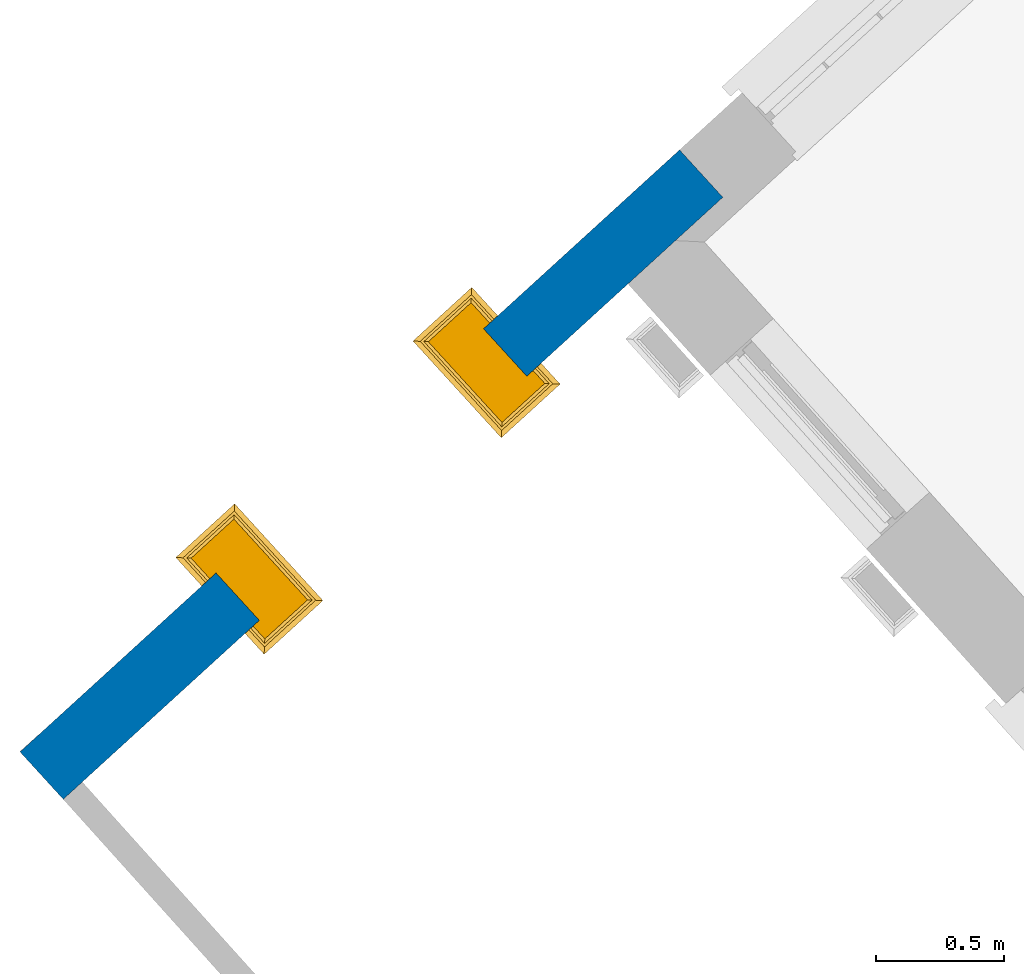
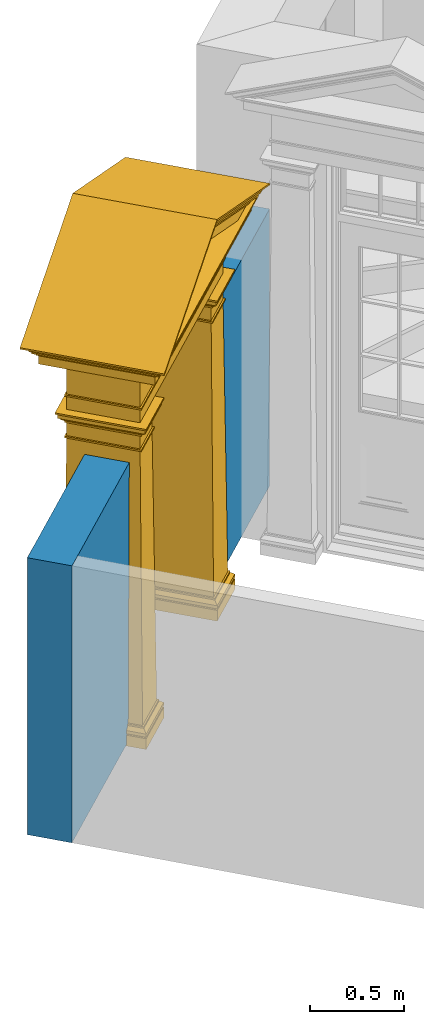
# One storey, part 2 of 7: 1 door, 1 wall, 1 opening.
"""IFC4 building model written with IfcOpenShell, lengths in metres."""

import ifcopenshell
import ifcopenshell.guid

model = None  # the IFC model being written
_history = None  # IfcOwnerHistory: only IFC2X3 demands one
_inside = {}  # id of a spatial element -> (the spatial element, [elements in it])
_under = {}  # id of a project, library or spatial element -> (it, [spatial elements below it])
_declared = {}  # id of a project -> (the project, [libraries it declares])
_typed = {}  # id of a type object -> (the type object, [elements of that type])
_made_of = {}  # id of a material, layer set ... -> (it, [elements and type objects made of it])


def new_model(schema):
    """Start an empty IFC model of exactly this schema.

    Asked for "IFC4X3", IfcOpenShell would pick the latest addendum, in which some entities
    have other attributes; the version numbers below select the first issue.
    IFC2X3 requires an IfcOwnerHistory on every rooted entity: one is made here for all.
    """
    global model, _history
    if schema == "IFC4X3":
        model = ifcopenshell.file(schema_version=(4, 3, 0, 0))
    else:
        model = ifcopenshell.file(schema=schema)
    _inside.clear()
    _under.clear()
    _declared.clear()
    _typed.clear()
    _made_of.clear()
    _history = None
    if model.schema == "IFC2X3":
        org = make("IfcOrganization", Name="unknown")
        user = make(
            "IfcPersonAndOrganization",
            ThePerson=make("IfcPerson", FamilyName="unknown"),
            TheOrganization=org,
        )
        app = make(
            "IfcApplication",
            ApplicationDeveloper=org,
            Version="unknown",
            ApplicationFullName="unknown",
            ApplicationIdentifier="unknown",
        )
        _history = make(
            "IfcOwnerHistory",
            OwningUser=user,
            OwningApplication=app,
            ChangeAction="ADDED",
            CreationDate=0,
        )
    return model


def make(cls, **values):
    """One entity of the class cls with the attributes given. An attribute that is None is left unset."""
    return model.create_entity(
        cls, **{name: value for name, value in values.items() if value is not None}
    )


def rooted(cls, **values):
    """An entity with a GlobalId (a new one), such as an element, a storey or a relation."""
    return make(cls, GlobalId=ifcopenshell.guid.new(), OwnerHistory=_history, **values)


def si_unit(unit_type, name, prefix=None):
    """IfcSIUnit, for example si_unit("LENGTHUNIT", "METRE", prefix="MILLI")."""
    return make("IfcSIUnit", UnitType=unit_type, Prefix=prefix, Name=name)


def assignment(units):
    """IfcUnitAssignment: the units of a project."""
    return None if units is None else make("IfcUnitAssignment", Units=units)


def point(xyz):
    """IfcCartesianPoint."""
    return None if xyz is None else make("IfcCartesianPoint", Coordinates=xyz)


def direction(xyz):
    """IfcDirection."""
    return None if xyz is None else make("IfcDirection", DirectionRatios=xyz)


def frame(location, z_axis=None, x_axis=None):
    """IfcAxis2Placement3D, a coordinate frame: its origin and axes. An axis left out is left unset."""
    return make(
        "IfcAxis2Placement3D",
        Location=point(location),
        Axis=direction(z_axis),
        RefDirection=direction(x_axis),
    )


def origin():
    """The frame at (0, 0, 0) with its axes left unset."""
    return frame((0.0, 0.0, 0.0))


def origin_with_axes():
    """The frame at (0, 0, 0) with the z axis (0, 0, 1) and the x axis (1, 0, 0) written out."""
    return frame((0.0, 0.0, 0.0), z_axis=(0.0, 0.0, 1.0), x_axis=(1.0, 0.0, 0.0))


def place(relative_to, where):
    """IfcLocalPlacement: puts the frame where relative to a parent placement (None: the world)."""
    return make(
        "IfcLocalPlacement", PlacementRelTo=relative_to, RelativePlacement=where
    )


def context(
    kind, dimensions, precision=None, world=None, true_north=None, identifier=None
):
    """IfcGeometricRepresentationContext, for example the 3D "Model" context."""
    return make(
        "IfcGeometricRepresentationContext",
        ContextIdentifier=identifier,
        ContextType=kind,
        CoordinateSpaceDimension=dimensions,
        Precision=precision,
        WorldCoordinateSystem=world,
        TrueNorth=true_north,
    )


def subcontext(parent, identifier, kind, view, scale=None):
    """IfcGeometricRepresentationSubContext, for example "Body" below "Model"."""
    return make(
        "IfcGeometricRepresentationSubContext",
        ContextIdentifier=identifier,
        ContextType=kind,
        ParentContext=parent,
        TargetScale=scale,
        TargetView=view,
    )


def project(units=None, contexts=None):
    """IfcProject with its units and contexts."""
    return rooted(
        "IfcProject",
        Name="project",
        RepresentationContexts=contexts,
        UnitsInContext=assignment(units),
    )


def spatial(cls, under=None, at=None, **own):
    """A site, building, storey or space (cls), placed at a placement, below another one or the project."""
    s = rooted(cls, ObjectPlacement=at, **own)
    if under is not None:
        _under.setdefault(under.id(), (under, []))[1].append(s)
    return s


def polyline(points):
    """IfcPolyline through the points."""
    return make("IfcPolyline", Points=[point(p) for p in points])


def outline(outer, holes=None, kind="AREA"):
    """IfcArbitraryClosedProfileDef: a profile drawn as a closed curve; with holes, ...WithVoids."""
    if holes is None:
        return make("IfcArbitraryClosedProfileDef", ProfileType=kind, OuterCurve=outer)
    return make(
        "IfcArbitraryProfileDefWithVoids",
        ProfileType=kind,
        OuterCurve=outer,
        InnerCurves=holes,
    )


def extrude(swept, where, along, depth):
    """IfcExtrudedAreaSolid: the profile swept, set in the frame where, extruded along a direction by depth."""
    return make(
        "IfcExtrudedAreaSolid",
        SweptArea=swept,
        Position=where,
        ExtrudedDirection=direction(along),
        Depth=depth,
    )


def faces_of(points, faces, orient=None, outer=None):
    """IfcFace entities. A face is a list of loops; a loop is a list of indices into points, from 0.

    orient and outer hold one flag for each loop. By default every Orientation is true, the
    first loop of a face is its IfcFaceOuterBound and the others are IfcFaceBound.
    """
    made = []
    for i, loops in enumerate(faces):
        bounds = []
        for j, loop in enumerate(loops):
            is_outer = j == 0 if outer is None else outer[i][j]
            bounds.append(
                make(
                    "IfcFaceOuterBound" if is_outer else "IfcFaceBound",
                    Bound=make("IfcPolyLoop", Polygon=[points[k] for k in loop]),
                    Orientation=True if orient is None else orient[i][j],
                )
            )
        made.append(make("IfcFace", Bounds=bounds))
    return made


def faceted_brep(points, faces, orient=None, outer=None, voids=None):
    """IfcFacetedBrep: a solid bounded by flat faces; with voids (closed shells), ...WithVoids."""
    shared = [point(p) for p in points]
    hull = make("IfcClosedShell", CfsFaces=faces_of(shared, faces, orient, outer))
    if voids is None:
        return make("IfcFacetedBrep", Outer=hull)
    return make(
        "IfcFacetedBrepWithVoids",
        Outer=hull,
        Voids=[
            make(cls, CfsFaces=faces_of(shared, fs, o, b)) for cls, fs, o, b in voids
        ],
    )


def shape(context_of_items, identifier, shape_type, items):
    """IfcShapeRepresentation: the items that make up one representation, for example the "Body"."""
    return make(
        "IfcShapeRepresentation",
        ContextOfItems=context_of_items,
        RepresentationIdentifier=identifier,
        RepresentationType=shape_type,
        Items=items,
    )


def source(mapping_origin, context_of_items, identifier, shape_type, items):
    """IfcRepresentationMap: a shape defined once, which mapped items show again and again."""
    return make(
        "IfcRepresentationMap",
        MappingOrigin=mapping_origin,
        MappedRepresentation=shape(context_of_items, identifier, shape_type, items),
    )


def transform(
    local_origin,
    x_axis=None,
    y_axis=None,
    z_axis=None,
    scale=None,
    scale2=None,
    scale3=None,
    uniform=True,
):
    """IfcCartesianTransformationOperator3D, or its non-uniform kind. x_axis, y_axis, z_axis: its Axis1, 2, 3."""
    if uniform:
        return make(
            "IfcCartesianTransformationOperator3D",
            Axis1=direction(x_axis),
            Axis2=direction(y_axis),
            LocalOrigin=point(local_origin),
            Scale=scale,
            Axis3=direction(z_axis),
        )
    return make(
        "IfcCartesianTransformationOperator3DnonUniform",
        Axis1=direction(x_axis),
        Axis2=direction(y_axis),
        LocalOrigin=point(local_origin),
        Scale=scale,
        Axis3=direction(z_axis),
        Scale2=scale2,
        Scale3=scale3,
    )


def mapped(mapping_source, mapping_target):
    """IfcMappedItem: shows the shape of a source again, moved by a transform."""
    return make(
        "IfcMappedItem", MappingSource=mapping_source, MappingTarget=mapping_target
    )


def material(Name=None, Category=None):
    """IfcMaterial."""
    return make("IfcMaterial", Name=Name, Category=Category)


def layer(
    of_material, thickness, ventilated=None, Name=None, Category=None, Priority=None
):
    """IfcMaterialLayer: one layer of a wall or slab, of a material (None: an air gap)."""
    return make(
        "IfcMaterialLayer",
        Material=of_material,
        LayerThickness=thickness,
        IsVentilated=ventilated,
        Name=Name,
        Category=Category,
        Priority=Priority,
    )


def layer_set(layers, Name=None):
    """IfcMaterialLayerSet."""
    return make("IfcMaterialLayerSet", MaterialLayers=layers, LayerSetName=Name)


def layer_usage(for_layer_set, set_direction, sense, offset, extent=None):
    """IfcMaterialLayerSetUsage: how a layer set lies in its element."""
    return make(
        "IfcMaterialLayerSetUsage",
        ForLayerSet=for_layer_set,
        LayerSetDirection=set_direction,
        DirectionSense=sense,
        OffsetFromReferenceLine=offset,
        ReferenceExtent=extent,
    )


def made_of(thing, what):
    """Note that an element or type object is made of a material, layer set ...; save() writes the relation."""
    if what is not None:
        _made_of.setdefault(what.id(), (what, []))[1].append(thing)
    return thing


def type_object(cls, material=None, **own):
    """A type object (cls), such as IfcWallType, which elements share."""
    return made_of(rooted(cls, **own), material)


def type_shapes(of_type, sources):
    """Give a type object the sources (RepresentationMaps) that its elements show as mapped items."""
    of_type.RepresentationMaps = sources


def element(
    cls,
    number,
    at=None,
    inside=None,
    cuts=None,
    type_object=None,
    material=None,
    context=None,
    identifier="Body",
    shape_type=None,
    held_by="IfcProductDefinitionShape",
    body=None,
    shapes=None,
    **own,
):
    """One element of the class cls, such as IfcWall. Its Tag is "e" and its number.

    at: its placement. inside: the storey or other place that contains it. cuts: it is an
    opening in that element (IfcRelVoidsElement). A single representation is given by context,
    identifier, shape_type and body (its items); several are given by shapes. held_by: the class
    of the entity that holds the representations. save() writes the other relations.
    """
    e = rooted(cls, Tag="e%d" % number, ObjectPlacement=at, **own)
    if body is not None:
        shapes = [shape(context, identifier, shape_type, body)]
    if shapes is not None:
        e.Representation = make(held_by, Representations=shapes)
    if inside is not None:
        _inside.setdefault(inside.id(), (inside, []))[1].append(e)
    if cuts is not None:
        rooted(
            "IfcRelVoidsElement", RelatingBuildingElement=cuts, RelatedOpeningElement=e
        )
    if type_object is not None:
        _typed.setdefault(type_object.id(), (type_object, []))[1].append(e)
    return made_of(e, material)


def fill(opening, filler):
    """IfcRelFillsElement: the door or window that sits in an opening."""
    return rooted(
        "IfcRelFillsElement",
        RelatingOpeningElement=opening,
        RelatedBuildingElement=filler,
    )


def aggregate(whole, parts):
    """IfcRelAggregates: a whole, such as a stair, and the parts it consists of."""
    return rooted("IfcRelAggregates", RelatingObject=whole, RelatedObjects=parts)


def save(model, path):
    """Write the relations noted so far, then the file.

    IfcRelAggregates (storeys below a building ...), IfcRelContainedInSpatialStructure (elements
    in a storey), IfcRelDefinesByType, IfcRelAssociatesMaterial and IfcRelDeclares: one each for
    every whole, place, type object, material and project.
    """
    for whole, parts in _under.values():
        aggregate(whole, parts)
    for where, things in _inside.values():
        rooted(
            "IfcRelContainedInSpatialStructure",
            RelatedElements=things,
            RelatingStructure=where,
        )
    for kind, things in _typed.values():
        rooted("IfcRelDefinesByType", RelatedObjects=things, RelatingType=kind)
    for what, things in _made_of.values():
        rooted("IfcRelAssociatesMaterial", RelatedObjects=things, RelatingMaterial=what)
    for by, libraries in _declared.values():
        rooted("IfcRelDeclares", RelatingContext=by, RelatedDefinitions=libraries)
    model.write(path)


model = new_model("IFC4")

# Units and contexts
model_context = context("Model", 3, world=origin_with_axes())
body_context = subcontext(model_context, "Body", "Model", "MODEL_VIEW")
ifc_project = project(units=[si_unit("PLANEANGLEUNIT", "RADIAN"), si_unit("MASSUNIT", "GRAM", prefix="KILO"), si_unit("FORCEUNIT", "NEWTON", prefix="KILO"), si_unit("LENGTHUNIT", "METRE"), si_unit("AREAUNIT", "SQUARE_METRE"), si_unit("VOLUMEUNIT", "CUBIC_METRE")], contexts=[model_context, model_context])

# Sites, building, storey
site_1_placement = place(None, origin_with_axes())
site_1 = spatial("IfcSite", under=ifc_project, at=site_1_placement, Name="Tamar")
site_2_placement = place(site_1_placement, origin_with_axes())
site_2 = spatial("IfcSite", under=site_1, at=site_2_placement, Name="Site plot-7", CompositionType="ELEMENT")
building_placement = place(None, origin_with_axes())
building = spatial("IfcBuilding", under=site_2, at=building_placement, Name="Building plot-7", CompositionType="ELEMENT")
storey_placement = place(None, frame((0.0, 0.0, 26.0), z_axis=(0.0, 0.0, 1.0), x_axis=(1.0, 0.0, 0.0)))
storey = spatial("IfcBuildingStorey", under=building, at=storey_placement, Name="plot-7 0", CompositionType="ELEMENT", Elevation=26.0)

# Wall, opening, door
ifc_material = material(Name="Masonry")
ifc_layer = layer(ifc_material, 0.25, ventilated=False)
ifc_layer_set = layer_set([ifc_layer], Name="fence_0_0.25")
ifc_layer_usage = layer_usage(ifc_layer_set, "AXIS2", "POSITIVE", -0.25)
wall_type = type_object("IfcWallType", Name="fence_0_0.25", PredefinedType="SOLIDWALL", material=ifc_layer_set)
wall_placement = place(storey_placement, frame((239.471954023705, 287.134500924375, 0.0), z_axis=(0.0, 0.0, 1.0), x_axis=(-0.738612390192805, -0.674130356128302, 0.0)))
wall = element("IfcWall", 1, at=wall_placement, inside=storey, type_object=wall_type, material=ifc_layer_usage, Name="fence", context=body_context, shape_type="SweptSolid", body=[
    extrude(outline(polyline([(-0.249999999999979, 9.9613910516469e-15), (-0.249999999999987, -0.250000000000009), (3.22633409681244, -0.250000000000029), (3.22633409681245, -1.00294611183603e-14), (-0.249999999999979, 9.9613910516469e-15)])), origin_with_axes(), (0.0, 0.0, 1.0), 1.8),
])
opening_placement = place(wall_placement, frame((0.783167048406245, 0.0, -0.0100000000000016)))
opening = element("IfcOpeningElement", 2, at=opening_placement, cuts=wall, Name="My Opening", ObjectType="Opening", context=body_context, shape_type="SweptSolid", body=[
    extrude(outline(polyline([(0.0, -0.270000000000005), (1.41000000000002, -0.269999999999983), (1.41000000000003, 1.02000000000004), (7.32747196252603e-15, 1.02000000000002), (0.0, -0.270000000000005)])), origin_with_axes(), (0.0, 0.0, 1.0), 1.81),
])
door_type = type_object("IfcDoorType", Name="gate", OperationType="SINGLE_SWING_LEFT", PredefinedType="NOTDEFINED")
shared_shape = source(origin(), body_context, "Body", "Brep", [
    faceted_brep([(1.565, 0.25, 2.5), (1.565, -0.21, 2.5), (1.565, -0.21, 2.49), (1.565, 0.25, 2.49), (1.445, -0.09, 2.01), (1.215, -0.09, 2.01), (1.215, -0.09, 2.0), (1.445, -0.09, 2.0), (-0.035, -0.09, 2.180001), (-0.025, -0.08, 2.180001), (-0.025, 0.25, 2.180001), (-0.035, 0.25, 2.180001), (-0.025, -0.08, 2.170001), (-0.035, -0.09, 2.170001), (-0.035, 0.25, 2.170001), (-0.025, 0.25, 2.170001), (1.445, -0.09, 2.180001), (1.435, -0.08, 2.180001), (-0.025, -0.08, 2.37), (-0.025, 0.25, 2.37), (1.435, -0.08, 2.170001), (1.445, -0.09, 2.170001), (-0.025, -0.08, 2.08), (-0.025, 0.25, 2.08), (1.445, 0.25, 2.180001), (1.435, 0.25, 2.180001), (1.435, -0.08, 2.37), (-0.035, -0.09, 2.37), (-0.035, 0.25, 2.37), (1.435, 0.25, 2.37), (1.445, 0.25, 2.170001), (1.435, 0.25, 2.170001), (0.235, -0.08, 2.08), (0.235, 0.25, 2.08), (1.175, 0.25, 2.08), (1.175, -0.08, 2.08), (-0.075, 0.25, 2.08), (-0.075, -0.13, 2.08), (1.445, -0.09, 2.37), (-0.035, -0.09, 2.380001), (-0.035, 0.25, 2.380001), (1.445, 0.25, 2.37), (1.435, -0.08, 2.08), (1.435, 0.25, 2.08), (0.235, 0.38, 2.07), (0.235, 0.38, 2.08), (0.235, 0.33, 2.08), (0.235, -0.13, 2.08), (-0.075, 0.25, 2.07), (-0.075, -0.13, 2.07), (1.445, -0.09, 2.380001), (-0.045, -0.1, 2.39), (-0.045, 0.25, 2.39), (1.455, 0.25, 2.39), (1.455, -0.1, 2.39), (1.445, 0.25, 2.380001), (1.485, -0.13, 2.08), (1.485, 0.25, 2.08), (0.235, -0.13, 2.07), (1.175, -0.13, 2.08), (-0.065, 0.25, 2.07), (-0.065, -0.12, 2.07), (-0.055, -0.11, 2.39), (-0.055, 0.25, 2.39), (1.465, 0.25, 2.39), (1.465, -0.11, 2.39), (1.485, 0.25, 2.07), (1.485, -0.13, 2.07), (0.225, 0.25, 2.07), (0.235, 0.25, 2.07), (0.225, -0.12, 2.07), (-0.065, 0.25, 2.04), (-0.065, -0.12, 2.04), (1.475, 0.25, 2.07), (1.475, -0.12, 2.07), (1.175, 0.25, 2.07), (1.185, 0.25, 2.07), (1.185, -0.12, 2.07), (1.175, -0.13, 2.07), (1.175, 0.33, 2.08), (1.175, 0.38, 2.07), (-0.055, -0.11, 2.4), (-0.055, 0.25, 2.4), (1.465, 0.25, 2.4), (1.465, -0.11, 2.4), (0.225, 0.25, 2.04), (0.225, -0.12, 2.04), (-0.055, 0.25, 2.04), (-0.055, -0.11, 2.04), (1.475, 0.25, 2.04), (1.475, -0.12, 2.04), (1.185, 0.25, 2.04), (1.195, 0.25, 2.04), (1.195, -0.11, 2.04), (1.185, -0.12, 2.04), (-0.065, -0.12, 2.4), (-0.065, 0.25, 2.4), (-0.085, -0.14, 2.42), (-0.085, 0.25, 2.42), (-0.085, -0.14, 2.43), (-0.085, 0.25, 2.43), (1.495, 0.25, 2.43), (1.495, -0.14, 2.43), (1.495, -0.14, 2.42), (1.495, 0.25, 2.42), (1.475, 0.25, 2.4), (1.475, -0.12, 2.4), (0.215, 0.25, 2.04), (0.215, -0.11, 2.04), (-0.055, 0.25, 2.03), (-0.055, -0.11, 2.03), (0.215, 0.25, 2.03), (0.215, -0.11, 2.03), (1.465, 0.25, 2.04), (1.465, -0.11, 2.04), (1.195, 0.25, 2.03), (1.195, -0.11, 2.03), (1.465, 0.25, 2.03), (1.465, -0.11, 2.03), (-0.145, -0.2, 2.43), (-0.145, 0.25, 2.43), (1.555, 0.25, 2.43), (1.555, -0.2, 2.43), (-0.035, 0.25, 2.01), (-0.035, -0.09, 2.01), (0.195, 0.25, 2.01), (0.195, -0.09, 2.01), (1.215, 0.25, 2.01), (1.445, 0.25, 2.01), (-0.145, -0.2, 2.49), (-0.145, 0.25, 2.49), (1.555, 0.25, 2.49), (1.555, -0.2, 2.49), (-0.035, 0.25, 2.0), (-0.035, -0.09, 2.0), (0.195, 0.25, 2.0), (0.195, -0.09, 2.0), (1.215, 0.25, 2.0), (1.445, 0.25, 2.0), (-0.155, -0.21, 2.49), (-0.155, 0.25, 2.49), (-0.155, -0.21, 2.5), (-0.155, 0.25, 2.5), (-0.165, -0.22, 2.51), (-0.165, 0.25, 2.51), (1.575, 0.25, 2.51), (1.575, -0.22, 2.51), (-0.025, -0.08, 2.0), (-0.025, 0.25, 2.0), (0.185, -0.08, 2.0), (0.185, 0.25, 2.0), (-0.025, 0.25, 1.91), (-0.025, -0.08, 1.91), (0.185, 0.25, 1.91), (0.185, -0.08, 1.91), (1.225, 0.25, 2.0), (1.225, -0.08, 2.0), (1.435, -0.08, 2.0), (1.435, 0.25, 2.0), (1.435, 0.25, 1.91), (1.435, -0.08, 1.91), (1.225, 0.25, 1.91), (1.225, -0.08, 1.91), (-0.175, -0.23, 2.51), (-0.175, 0.25, 2.51), (1.585, 0.25, 2.51), (1.585, -0.23, 2.51), (-0.035, 0.25, 1.91), (-0.035, -0.09, 1.91), (0.195, -0.09, 1.91), (0.195, 0.25, 1.91), (1.445, -0.09, 1.91), (1.445, 0.25, 1.91), (1.215, -0.09, 1.91), (1.215, 0.25, 1.91), (-0.175, -0.23, 2.52), (-0.175, 0.25, 2.52), (1.585, 0.25, 2.52), (1.585, -0.23, 2.52), (-0.035, 0.25, 1.9), (-0.035, -0.09, 1.9), (0.195, 0.25, 1.9), (0.195, -0.09, 1.9), (-0.025, -0.08, 1.9), (-0.025, 0.25, 1.9), (0.185, -0.08, 1.9), (0.185, 0.25, 1.9), (-0.045, 0.25, 0.13), (-0.045, -0.1, 0.13), (0.205, 0.25, 0.13), (0.205, -0.1, 0.13), (1.445, -0.09, 1.9), (1.445, 0.25, 1.9), (1.435, -0.08, 1.9), (1.435, 0.25, 1.9), (1.455, -0.1, 0.13), (1.455, 0.25, 0.13), (1.225, 0.25, 1.9), (1.205, 0.25, 0.13), (1.205, -0.1, 0.13), (1.225, -0.08, 1.9), (1.215, -0.09, 1.9), (1.215, 0.25, 1.9), (-0.185, -0.24, 2.526), (-0.185, 0.25, 2.526), (-0.150858, -0.23, 2.52), (1.560858, -0.23, 2.52), (-0.195, -0.25, 2.551001), (-0.195, 0.25, 2.551001), (-0.223, 0.25, 2.561001), (-0.223, -0.278, 2.561001), (1.633, -0.278, 2.561001), (1.605, -0.25, 2.551001), (1.605, 0.25, 2.551001), (1.633, 0.25, 2.561001), (1.595, 0.25, 2.526), (1.595, -0.24, 2.526), (-0.055, 0.25, 0.13), (-0.055, -0.11, 0.13), (0.215, 0.25, 0.13), (0.215, -0.11, 0.13), (1.465, -0.11, 0.13), (1.465, 0.25, 0.13), (1.195, 0.25, 0.13), (1.195, -0.11, 0.13), (0.705, -0.23, 2.884508), (0.705, -0.24, 2.89465), (0.705, -0.23, 2.874508), (1.486538, -0.21, 2.522499), (-0.076538, -0.21, 2.522499), (0.705, -0.25, 2.923792), (0.705, -0.278, 2.945389), (-0.223, -0.278, 2.571001), (-0.223, 0.25, 2.571001), (1.633, 0.25, 2.571001), (1.633, -0.278, 2.571001), (-0.055, 0.25, 0.12), (-0.055, -0.11, 0.12), (0.215, 0.25, 0.12), (0.215, -0.11, 0.12), (-0.075, 0.25, 0.1), (-0.075, -0.13, 0.1), (0.235, 0.25, 0.1), (0.235, -0.13, 0.1), (1.465, 0.25, 0.12), (1.465, -0.11, 0.12), (1.485, 0.25, 0.1), (1.485, -0.13, 0.1), (1.195, 0.25, 0.12), (1.175, 0.25, 0.1), (1.175, -0.13, 0.1), (1.195, -0.11, 0.12), (-0.13784, -0.22, 2.52125), (0.705, -0.22, 2.870365), (1.51068, -0.21, 2.522499), (1.54784, -0.22, 2.52125), (1.316733, -0.2, 2.523749), (0.093267, -0.2, 2.523749), (-0.10068, -0.21, 2.522499), (0.705, -0.278, 2.955389), (0.705, 0.25, 2.955389), (-0.075, 0.25, 0.08), (-0.075, -0.13, 0.08), (0.235, 0.25, 0.08), (0.235, -0.13, 0.08), (1.485, -0.13, 0.08), (1.485, 0.25, 0.08), (1.175, 0.25, 0.08), (1.175, -0.13, 0.08), (0.705, -0.21, 2.856223), (0.705, -0.21, 2.846222), (1.272495, -0.14, 2.53125), (0.137505, -0.14, 2.53125), (-0.06352, -0.2, 2.523749), (1.47352, -0.2, 2.523749), (-0.065, 0.25, 0.07), (-0.065, -0.12, 0.07), (0.225, 0.25, 0.07), (0.225, -0.12, 0.07), (1.475, 0.25, 0.07), (1.475, -0.12, 0.07), (1.185, 0.25, 0.07), (1.185, -0.12, 0.07), (0.705, -0.2, 2.842082), (1.298626, -0.14, 2.53125), (1.214197, -0.12, 2.533749), (0.195803, -0.12, 2.533749), (0.111374, -0.14, 2.53125), (0.705, -0.2, 2.777137), (-0.075, 0.25, 0.07), (-0.075, -0.13, 0.07), (0.235, -0.13, 0.07), (0.235, 0.25, 0.07), (0.235, -0.13, 0.0), (-0.075, -0.13, 0.0), (-0.075, 0.25, 0.0), (0.235, 0.25, 0.0), (1.485, -0.13, 0.07), (1.485, 0.25, 0.07), (1.485, -0.13, 0.0), (1.175, -0.13, 0.0), (1.175, 0.25, 0.0), (1.485, 0.25, 0.0), (1.175, -0.13, 0.07), (1.175, 0.25, 0.07), (0.705, -0.14, 2.766314), (0.705, -0.14, 2.777137), (0.705, -0.12, 2.744666), (1.185048, -0.11, 2.535), (0.224952, -0.11, 2.535), (0.705, -0.11, 2.744666), (1.211179, -0.11, 2.535), (1.12675, -0.09, 2.537501), (0.28325, -0.09, 2.537501), (0.198821, -0.11, 2.535), (0.705, -0.11, 2.733843), (1.152881, -0.09, 2.537501), (1.18203, -0.1, 2.536251), (0.286268, -0.08, 2.538751), (1.123732, -0.08, 2.538751), (0.22797, -0.1, 2.536251), (0.257119, -0.09, 2.537501), (0.705, -0.1, 2.733843), (0.705, -0.09, 2.712194), (0.705, -0.09, 2.723017), (0.705, -0.08, 2.712194), (-0.155, 0.46, 2.5), (-0.155, 0.46, 2.49), (-0.035, 0.34, 2.01), (0.195, 0.34, 2.01), (0.195, 0.34, 2.0), (-0.035, 0.34, 2.0), (1.445, 0.34, 2.180001), (1.435, 0.33, 2.180001), (1.435, 0.33, 2.170001), (1.445, 0.34, 2.170001), (-0.035, 0.34, 2.180001), (-0.025, 0.33, 2.180001), (1.435, 0.33, 2.37), (-0.025, 0.33, 2.170001), (-0.035, 0.34, 2.170001), (1.435, 0.33, 2.08), (-0.025, 0.33, 2.37), (1.445, 0.34, 2.37), (1.485, 0.38, 2.08), (-0.035, 0.34, 2.37), (1.445, 0.34, 2.380001), (-0.025, 0.33, 2.08), (1.175, 0.38, 2.08), (1.485, 0.38, 2.07), (-0.035, 0.34, 2.380001), (1.455, 0.35, 2.39), (-0.045, 0.35, 2.39), (-0.075, 0.38, 2.08), (1.475, 0.37, 2.07), (1.465, 0.36, 2.39), (-0.055, 0.36, 2.39), (-0.075, 0.38, 2.07), (1.185, 0.37, 2.07), (1.475, 0.37, 2.04), (-0.065, 0.37, 2.07), (0.225, 0.37, 2.07), (1.465, 0.36, 2.4), (-0.055, 0.36, 2.4), (1.185, 0.37, 2.04), (1.465, 0.36, 2.04), (-0.065, 0.37, 2.04), (0.215, 0.36, 2.04), (0.225, 0.37, 2.04), (1.475, 0.37, 2.4), (1.495, 0.39, 2.42), (1.495, 0.39, 2.43), (-0.085, 0.39, 2.43), (-0.085, 0.39, 2.42), (-0.065, 0.37, 2.4), (1.195, 0.36, 2.04), (1.465, 0.36, 2.03), (1.195, 0.36, 2.03), (-0.055, 0.36, 2.04), (0.215, 0.36, 2.03), (-0.055, 0.36, 2.03), (1.555, 0.45, 2.43), (-0.145, 0.45, 2.43), (1.445, 0.34, 2.01), (1.215, 0.34, 2.01), (1.555, 0.45, 2.49), (-0.145, 0.45, 2.49), (1.445, 0.34, 2.0), (1.215, 0.34, 2.0), (1.565, 0.46, 2.49), (1.565, 0.46, 2.5), (1.575, 0.47, 2.51), (-0.165, 0.47, 2.51), (1.435, 0.33, 2.0), (1.225, 0.33, 2.0), (1.435, 0.33, 1.91), (1.225, 0.33, 1.91), (0.185, 0.33, 2.0), (-0.025, 0.33, 2.0), (-0.025, 0.33, 1.91), (0.185, 0.33, 1.91), (1.585, 0.48, 2.51), (-0.175, 0.48, 2.51), (1.445, 0.34, 1.91), (1.215, 0.34, 1.91), (-0.035, 0.34, 1.91), (0.195, 0.34, 1.91), (1.585, 0.48, 2.52), (-0.175, 0.48, 2.52), (1.445, 0.34, 1.9), (1.215, 0.34, 1.9), (1.435, 0.33, 1.9), (1.225, 0.33, 1.9), (1.455, 0.35, 0.13), (1.205, 0.35, 0.13), (-0.035, 0.34, 1.9), (-0.025, 0.33, 1.9), (-0.045, 0.35, 0.13), (0.205, 0.35, 0.13), (0.185, 0.33, 1.9), (0.195, 0.34, 1.9), (1.595, 0.49, 2.526), (1.560858, 0.48, 2.52), (-0.150858, 0.48, 2.52), (1.605, 0.5, 2.551001), (1.633, 0.528, 2.561001), (-0.223, 0.528, 2.561001), (-0.195, 0.5, 2.551001), (-0.185, 0.49, 2.526), (1.465, 0.36, 0.13), (1.195, 0.36, 0.13), (-0.055, 0.36, 0.13), (0.215, 0.36, 0.13), (0.705, 0.48, 2.884508), (0.705, 0.49, 2.89465), (0.705, 0.48, 2.874508), (-0.076538, 0.46, 2.522499), (1.486538, 0.46, 2.522499), (0.705, 0.5, 2.923792), (0.705, 0.528, 2.945389), (1.633, 0.528, 2.571001), (-0.223, 0.528, 2.571001), (1.465, 0.36, 0.12), (1.195, 0.36, 0.12), (1.485, 0.38, 0.1), (1.175, 0.38, 0.1), (-0.055, 0.36, 0.12), (-0.075, 0.38, 0.1), (0.235, 0.38, 0.1), (0.215, 0.36, 0.12), (1.54784, 0.47, 2.52125), (0.705, 0.47, 2.870365), (-0.10068, 0.46, 2.522499), (-0.13784, 0.47, 2.52125), (0.093267, 0.45, 2.523749), (1.316733, 0.45, 2.523749), (1.51068, 0.46, 2.522499), (0.705, 0.528, 2.955389), (1.485, 0.38, 0.08), (1.175, 0.38, 0.08), (-0.075, 0.38, 0.08), (0.235, 0.38, 0.08), (0.705, 0.46, 2.856223), (0.705, 0.46, 2.846222), (0.137505, 0.39, 2.53125), (1.272495, 0.39, 2.53125), (1.47352, 0.45, 2.523749), (-0.06352, 0.45, 2.523749), (1.475, 0.37, 0.07), (1.185, 0.37, 0.07), (-0.065, 0.37, 0.07), (0.225, 0.37, 0.07), (0.705, 0.45, 2.842082), (0.111374, 0.39, 2.53125), (0.195803, 0.37, 2.533749), (1.214197, 0.37, 2.533749), (1.298626, 0.39, 2.53125), (0.705, 0.45, 2.777137), (1.485, 0.38, 0.07), (1.175, 0.38, 0.07), (1.175, 0.38, 0.0), (1.485, 0.38, 0.0), (-0.075, 0.38, 0.07), (-0.075, 0.38, 0.0), (0.235, 0.38, 0.0), (0.235, 0.38, 0.07), (0.705, 0.39, 2.766314), (0.705, 0.39, 2.777137), (0.705, 0.37, 2.744666), (0.224952, 0.36, 2.535), (1.185048, 0.36, 2.535), (0.705, 0.36, 2.744666), (0.198821, 0.36, 2.535), (0.28325, 0.34, 2.537501), (1.12675, 0.34, 2.537501), (1.211179, 0.36, 2.535), (0.705, 0.36, 2.733843), (0.257119, 0.34, 2.537501), (0.22797, 0.35, 2.536251), (1.123732, 0.33, 2.538751), (0.286268, 0.33, 2.538751), (1.18203, 0.35, 2.536251), (1.152881, 0.34, 2.537501), (0.705, 0.35, 2.733843), (0.705, 0.34, 2.723017), (0.705, 0.34, 2.712194), (0.705, 0.33, 2.712194)], [[[0, 1, 2, 3]], [[4, 5, 6, 7]], [[8, 9, 10, 11]], [[12, 13, 14, 15]], [[13, 8, 11, 14]], [[9, 8, 16, 17]], [[9, 18, 19, 10]], [[13, 12, 20, 21]], [[22, 12, 15, 23]], [[8, 13, 21, 16]], [[17, 16, 24, 25]], [[18, 9, 17, 26]], [[27, 28, 19, 18]], [[26, 17, 25, 29]], [[16, 21, 30, 24]], [[21, 20, 31, 30]], [[32, 33, 34, 35]], [[12, 32, 35, 20]], [[12, 22, 32]], [[22, 23, 36, 37]], [[27, 18, 26, 38]], [[39, 40, 28, 27]], [[41, 38, 26, 29]], [[20, 42, 43, 31]], [[44, 45, 46]], [[42, 20, 35]], [[37, 47, 32, 22]], [[36, 48, 49, 37]], [[39, 27, 38, 50]], [[51, 52, 40, 39]], [[53, 54, 50, 55]], [[55, 50, 38, 41]], [[43, 42, 56, 57]], [[32, 47, 58]], [[59, 56, 42, 35]], [[58, 47, 37, 49]], [[48, 60, 61, 49]], [[51, 39, 50, 54]], [[62, 63, 52, 51]], [[64, 65, 54, 53]], [[66, 57, 56, 67]], [[68, 69, 58, 70]], [[60, 71, 72, 61]], [[73, 66, 67, 74]], [[75, 76, 77, 78]], [[34, 79, 80, 75]], [[59, 78, 67, 56]], [[61, 70, 58, 49]], [[62, 51, 54, 65]], [[81, 82, 63, 62]], [[83, 84, 65, 64]], [[85, 68, 70, 86]], [[71, 87, 88, 72]], [[86, 70, 61, 72]], [[77, 74, 67, 78]], [[89, 73, 74, 90]], [[91, 92, 93, 94]], [[76, 91, 94, 77]], [[81, 62, 65, 84]], [[95, 96, 82, 81]], [[97, 98, 96, 95]], [[99, 100, 98, 97]], [[101, 102, 103, 104]], [[105, 106, 84, 83]], [[104, 103, 106, 105]], [[107, 85, 86, 108]], [[87, 109, 110, 88]], [[88, 108, 86, 72]], [[111, 107, 108, 112]], [[77, 94, 90, 74]], [[113, 89, 90, 114]], [[92, 115, 116, 93]], [[93, 114, 90, 94]], [[117, 113, 114, 118]], [[95, 81, 84, 106]], [[97, 95, 106, 103]], [[119, 120, 100, 99]], [[99, 97, 103, 102]], [[121, 122, 102, 101]], [[109, 123, 124, 110]], [[112, 108, 88, 110]], [[125, 111, 112, 126]], [[115, 127, 5, 116]], [[93, 116, 118, 114]], [[128, 117, 118, 4]], [[129, 130, 120, 119]], [[119, 99, 102, 122]], [[131, 132, 122, 121]], [[123, 133, 134, 124]], [[110, 124, 126, 112]], [[135, 125, 126, 136]], [[127, 137, 6, 5]], [[4, 118, 116, 5]], [[138, 128, 4, 7]], [[139, 140, 130, 129]], [[129, 119, 122, 132]], [[141, 142, 140, 139]], [[143, 144, 142, 141]], [[145, 146, 1, 0]], [[3, 2, 132, 131]], [[147, 134, 133, 148]], [[126, 124, 134, 136]], [[135, 136, 149, 150]], [[148, 151, 152, 147]], [[153, 150, 149, 154]], [[6, 137, 155, 156]], [[7, 157, 158, 138]], [[159, 158, 157, 160]], [[155, 161, 162, 156]], [[139, 129, 132, 2]], [[141, 139, 2, 1]], [[163, 164, 144, 143]], [[143, 141, 1, 146]], [[165, 166, 146, 145]], [[147, 149, 136, 134]], [[167, 168, 152, 151]], [[147, 152, 154, 149]], [[154, 169, 170, 153]], [[156, 157, 7, 6]], [[160, 157, 156, 162]], [[171, 172, 159, 160]], [[173, 162, 161, 174]], [[175, 176, 164, 163]], [[163, 143, 146, 166]], [[177, 178, 166, 165]], [[179, 180, 168, 167]], [[154, 152, 168, 169]], [[181, 170, 169, 182]], [[183, 180, 179, 184]], [[181, 182, 185, 186]], [[184, 187, 188, 183]], [[189, 186, 185, 190]], [[160, 162, 173, 171]], [[191, 192, 172, 171]], [[191, 193, 194, 192]], [[193, 195, 196, 194]], [[197, 198, 199, 200]], [[201, 202, 197, 200]], [[174, 202, 201, 173]], [[203, 204, 176, 175]], [[175, 163, 205]], [[163, 166, 206, 205]], [[207, 208, 204, 203]], [[209, 208, 207, 210]], [[211, 212, 213, 214]], [[215, 216, 178, 177]], [[213, 212, 216, 215]], [[178, 206, 166]], [[180, 182, 169, 168]], [[183, 185, 182, 180]], [[187, 217, 218, 188]], [[183, 188, 190, 185]], [[219, 189, 190, 220]], [[201, 191, 171, 173]], [[200, 193, 191, 201]], [[195, 193, 200, 199]], [[195, 221, 222, 196]], [[198, 223, 224, 199]], [[175, 225, 226, 203]], [[225, 175, 205, 227]], [[205, 206, 228, 229]], [[203, 226, 230, 207]], [[207, 230, 231, 210]], [[232, 233, 209, 210]], [[234, 235, 211, 214]], [[231, 230, 212, 211]], [[216, 226, 225, 178]], [[212, 230, 226, 216]], [[227, 206, 178, 225]], [[217, 236, 237, 218]], [[220, 190, 188, 218]], [[238, 219, 220, 239]], [[236, 240, 241, 237]], [[242, 238, 239, 243]], [[221, 195, 199, 224]], [[244, 222, 221, 245]], [[246, 244, 245, 247]], [[248, 249, 250, 251]], [[223, 248, 251, 224]], [[227, 205, 252, 253]], [[254, 228, 206, 255]], [[256, 257, 229, 228]], [[252, 205, 229, 258]], [[231, 259, 232, 210]], [[260, 233, 232, 259]], [[234, 260, 259, 235]], [[259, 231, 211, 235]], [[253, 255, 206, 227]], [[239, 220, 218, 237]], [[261, 262, 241, 240]], [[243, 239, 237, 241]], [[263, 242, 243, 264]], [[224, 251, 245, 221]], [[251, 250, 247, 245]], [[265, 266, 246, 247]], [[249, 267, 268, 250]], [[253, 252, 258, 269]], [[270, 228, 254, 269]], [[269, 254, 255, 253]], [[256, 271, 272, 257]], [[273, 229, 257]], [[274, 256, 228]], [[269, 258, 229, 270]], [[261, 275, 276, 262]], [[264, 243, 241, 262]], [[277, 263, 264, 278]], [[250, 268, 265, 247]], [[279, 266, 265, 280]], [[267, 281, 282, 268]], [[283, 274, 228, 270]], [[284, 271, 256]], [[271, 285, 286, 272]], [[287, 257, 272]], [[270, 229, 273, 283]], [[283, 273, 257, 288]], [[288, 256, 274, 283]], [[289, 290, 276, 275]], [[262, 276, 278, 264]], [[278, 291, 292, 277]], [[293, 294, 295, 296]], [[280, 265, 268, 282]], [[297, 298, 279, 280]], [[299, 300, 301, 302]], [[303, 282, 281, 304]], [[305, 271, 284, 306]], [[306, 284, 256, 288]], [[307, 285, 271, 305]], [[285, 308, 309, 286]], [[305, 272, 286, 307]], [[288, 257, 287, 306]], [[306, 287, 272, 305]], [[289, 295, 294, 290]], [[278, 276, 290, 291]], [[296, 292, 291, 293]], [[290, 294, 293, 291]], [[280, 282, 303, 297]], [[302, 298, 297, 299]], [[299, 297, 303, 300]], [[304, 301, 300, 303]], [[310, 311, 285, 307]], [[311, 308, 285]], [[308, 312, 313, 309]], [[314, 286, 309]], [[307, 286, 314, 310]], [[315, 308, 311, 310]], [[316, 312, 308, 317]], [[318, 313, 312, 319]], [[320, 309, 313, 321]], [[310, 314, 309, 315]], [[322, 317, 308, 315]], [[323, 312, 316, 324]], [[324, 316, 317, 322]], [[323, 313, 318, 325]], [[325, 319, 312, 323]], [[325, 318, 319]], [[315, 309, 320, 322]], [[324, 321, 313, 323]], [[322, 320, 321, 324]], [[142, 326, 327, 140]], [[328, 329, 330, 331]], [[332, 333, 25, 24]], [[334, 335, 30, 31]], [[335, 332, 24, 30]], [[333, 332, 336, 337]], [[333, 338, 29, 25]], [[335, 334, 339, 340]], [[341, 334, 31, 43]], [[332, 335, 340, 336]], [[337, 336, 11, 10]], [[338, 333, 337, 342]], [[343, 41, 29, 338]], [[342, 337, 10, 19]], [[336, 340, 14, 11]], [[340, 339, 15, 14]], [[79, 34, 33, 46]], [[334, 79, 46, 339]], [[334, 341, 79]], [[341, 43, 57, 344]], [[343, 338, 342, 345]], [[346, 55, 41, 343]], [[28, 345, 342, 19]], [[339, 347, 23, 15]], [[35, 34, 75, 78]], [[33, 32, 58, 69]], [[347, 339, 46]], [[344, 348, 79, 341]], [[57, 66, 349, 344]], [[346, 343, 345, 350]], [[351, 53, 55, 346]], [[52, 352, 350, 40]], [[40, 350, 345, 28]], [[23, 347, 353, 36]], [[79, 348, 80]], [[45, 353, 347, 46]], [[80, 348, 344, 349]], [[66, 73, 354, 349]], [[351, 346, 350, 352]], [[355, 64, 53, 351]], [[63, 356, 352, 52]], [[48, 36, 353, 357]], [[76, 75, 80, 358]], [[73, 89, 359, 354]], [[60, 48, 357, 360]], [[69, 68, 361, 44]], [[46, 33, 69, 44]], [[45, 44, 357, 353]], [[354, 358, 80, 349]], [[355, 351, 352, 356]], [[362, 83, 64, 355]], [[82, 363, 356, 63]], [[91, 76, 358, 364]], [[89, 113, 365, 359]], [[364, 358, 354, 359]], [[361, 360, 357, 44]], [[71, 60, 360, 366]], [[85, 107, 367, 368]], [[68, 85, 368, 361]], [[362, 355, 356, 363]], [[369, 105, 83, 362]], [[370, 104, 105, 369]], [[371, 101, 104, 370]], [[100, 372, 373, 98]], [[96, 374, 363, 82]], [[98, 373, 374, 96]], [[92, 91, 364, 375]], [[113, 117, 376, 365]], [[365, 375, 364, 359]], [[115, 92, 375, 377]], [[361, 368, 366, 360]], [[87, 71, 366, 378]], [[107, 111, 379, 367]], [[367, 378, 366, 368]], [[109, 87, 378, 380]], [[369, 362, 363, 374]], [[370, 369, 374, 373]], [[381, 121, 101, 371]], [[371, 370, 373, 372]], [[120, 382, 372, 100]], [[117, 128, 383, 376]], [[377, 375, 365, 376]], [[127, 115, 377, 384]], [[111, 125, 329, 379]], [[367, 379, 380, 378]], [[123, 109, 380, 328]], [[385, 131, 121, 381]], [[381, 371, 372, 382]], [[130, 386, 382, 120]], [[128, 138, 387, 383]], [[376, 383, 384, 377]], [[137, 127, 384, 388]], [[125, 135, 330, 329]], [[328, 380, 379, 329]], [[133, 123, 328, 331]], [[389, 3, 131, 385]], [[385, 381, 382, 386]], [[390, 0, 3, 389]], [[391, 145, 0, 390]], [[144, 392, 326, 142]], [[140, 327, 386, 130]], [[393, 387, 138, 158]], [[384, 383, 387, 388]], [[137, 388, 394, 155]], [[158, 159, 395, 393]], [[161, 155, 394, 396]], [[330, 135, 150, 397]], [[331, 398, 148, 133]], [[151, 148, 398, 399]], [[150, 153, 400, 397]], [[389, 385, 386, 327]], [[390, 389, 327, 326]], [[401, 165, 145, 391]], [[391, 390, 326, 392]], [[164, 402, 392, 144]], [[393, 394, 388, 387]], [[172, 403, 395, 159]], [[393, 395, 396, 394]], [[396, 404, 174, 161]], [[397, 398, 331, 330]], [[399, 398, 397, 400]], [[405, 167, 151, 399]], [[406, 400, 153, 170]], [[407, 177, 165, 401]], [[401, 391, 392, 402]], [[176, 408, 402, 164]], [[192, 409, 403, 172]], [[396, 395, 403, 404]], [[202, 174, 404, 410]], [[411, 409, 192, 194]], [[202, 410, 412, 197]], [[194, 196, 413, 411]], [[198, 197, 412, 414]], [[399, 400, 406, 405]], [[415, 179, 167, 405]], [[415, 416, 184, 179]], [[416, 417, 187, 184]], [[186, 189, 418, 419]], [[420, 181, 186, 419]], [[170, 181, 420, 406]], [[421, 215, 177, 407]], [[407, 401, 422]], [[401, 402, 423, 422]], [[424, 213, 215, 421]], [[214, 213, 424, 425]], [[426, 427, 208, 209]], [[204, 428, 408, 176]], [[208, 427, 428, 204]], [[408, 423, 402]], [[409, 410, 404, 403]], [[411, 412, 410, 409]], [[196, 222, 429, 413]], [[411, 413, 414, 412]], [[223, 198, 414, 430]], [[420, 415, 405, 406]], [[419, 416, 415, 420]], [[417, 416, 419, 418]], [[417, 431, 217, 187]], [[189, 219, 432, 418]], [[407, 433, 434, 421]], [[433, 407, 422, 435]], [[422, 423, 436, 437]], [[421, 434, 438, 424]], [[424, 438, 439, 425]], [[440, 234, 214, 425]], [[233, 441, 426, 209]], [[439, 438, 427, 426]], [[428, 434, 433, 408]], [[427, 438, 434, 428]], [[435, 423, 408, 433]], [[222, 244, 442, 429]], [[430, 414, 413, 429]], [[248, 223, 430, 443]], [[244, 246, 444, 442]], [[249, 248, 443, 445]], [[431, 417, 418, 432]], [[236, 217, 431, 446]], [[240, 236, 446, 447]], [[238, 242, 448, 449]], [[219, 238, 449, 432]], [[435, 422, 450, 451]], [[452, 436, 423, 453]], [[454, 455, 437, 436]], [[450, 422, 437, 456]], [[439, 457, 440, 425]], [[260, 234, 440, 457]], [[233, 260, 457, 441]], [[457, 439, 426, 441]], [[451, 453, 423, 435]], [[443, 430, 429, 442]], [[266, 458, 444, 246]], [[445, 443, 442, 444]], [[267, 249, 445, 459]], [[432, 449, 446, 431]], [[449, 448, 447, 446]], [[460, 261, 240, 447]], [[242, 263, 461, 448]], [[451, 450, 456, 462]], [[463, 436, 452, 462]], [[462, 452, 453, 451]], [[454, 464, 465, 455]], [[466, 437, 455]], [[467, 454, 436]], [[462, 456, 437, 463]], [[266, 279, 468, 458]], [[459, 445, 444, 458]], [[281, 267, 459, 469]], [[448, 461, 460, 447]], [[275, 261, 460, 470]], [[263, 277, 471, 461]], [[472, 467, 436, 463]], [[473, 464, 454]], [[464, 474, 475, 465]], [[476, 455, 465]], [[463, 437, 466, 472]], [[472, 466, 455, 477]], [[477, 454, 467, 472]], [[298, 478, 468, 279]], [[458, 468, 469, 459]], [[469, 479, 304, 281]], [[480, 481, 302, 301]], [[470, 460, 461, 471]], [[482, 289, 275, 470]], [[483, 484, 296, 295]], [[485, 471, 277, 292]], [[486, 464, 473, 487]], [[487, 473, 454, 477]], [[488, 474, 464, 486]], [[474, 489, 490, 475]], [[486, 465, 475, 488]], [[477, 455, 476, 487]], [[487, 476, 465, 486]], [[298, 302, 481, 478]], [[469, 468, 478, 479]], [[301, 304, 479, 480]], [[478, 481, 480, 479]], [[470, 471, 485, 482]], [[295, 289, 482, 483]], [[483, 482, 485, 484]], [[292, 296, 484, 485]], [[491, 492, 474, 488]], [[492, 489, 474]], [[489, 493, 494, 490]], [[495, 475, 490]], [[488, 475, 495, 491]], [[496, 489, 492, 491]], [[497, 493, 489, 498]], [[499, 494, 493, 500]], [[501, 490, 494, 502]], [[491, 495, 490, 496]], [[503, 498, 489, 496]], [[497, 504, 505, 493]], [[504, 497, 498, 503]], [[505, 494, 499, 506]], [[506, 500, 493, 505]], [[506, 499, 500]], [[496, 490, 501, 503]], [[504, 502, 494, 505]], [[503, 501, 502, 504]], [[78, 59, 35]]]),
])
type_shapes(door_type, [shared_shape])
door_placement = place(storey_placement, frame((238.711481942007, 286.805969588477, -0.0100000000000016), z_axis=(0.0, 0.0, 1.0), x_axis=(-1.04144347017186, -0.950523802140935, 0.0)))
door = element("IfcDoor", 3, at=door_placement, inside=storey, type_object=door_type, Name="house entrance gate", OverallHeight=1.81, OverallWidth=1.41, context=body_context, shape_type="MappedRepresentation", body=[
    mapped(shared_shape, transform((0.0, 0.0, 0.0), scale=1.0)),
])
fill(opening, door)

save(model, "model.ifc")
